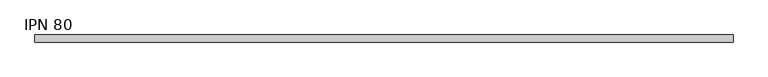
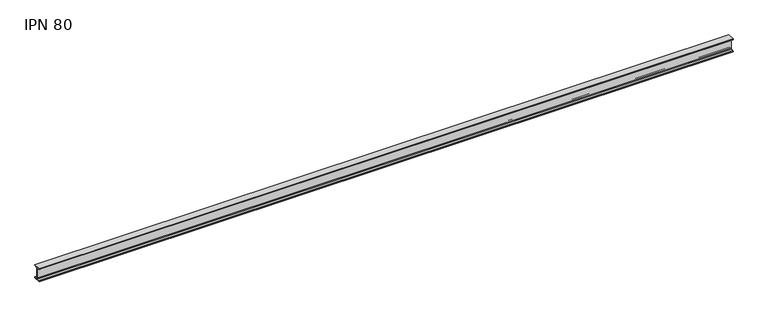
"""IFC4 building model written with IfcOpenShell, lengths in millimetres: beam geometry, IPN - Secciones en I con alas cónicas : IPN 80."""

from ifc_helpers import new_model, si_unit, point, frame, frame_2d, origin, place, context, project, spatial, polyline, circle_curve, trimmed, segment, composite_curve, outline, extrude, source, transform, mapped, element, save


def ipn_80_c23ce65d(model_context):
    return source(origin(), model_context, "Body", "SweptSolid", [
        extrude(outline(composite_curve([segment(polyline([(21.0, 40.0), (21.0, 37.5704306)]), True, "CONTINUOUS"), segment(trimmed(circle_curve(frame_2d((18.7, 37.5704306)), 2.3), [point((21.0, 37.5704306))], [point((19.01889, 35.2926446))], False, "CARTESIAN"), True, "CONTINUOUS"), segment(polyline([(19.01889, 35.2926446), (5.3092734, 33.3732983)]), True, "CONTINUOUS"), segment(trimmed(circle_curve(frame_2d((5.85, 29.5109655)), 3.9), [point((5.3092734, 33.3732983))], [point((1.95, 29.5109655))], True, "CARTESIAN"), True, "CONTINUOUS"), segment(polyline([(1.95, 29.5109655), (1.95, -29.5109655)]), True, "CONTINUOUS"), segment(trimmed(circle_curve(frame_2d((5.85, -29.5109655)), 3.9), [point((1.95, -29.5109655))], [point((5.3092734, -33.3732983))], True, "CARTESIAN"), True, "CONTINUOUS"), segment(polyline([(5.3092734, -33.3732983), (19.01889, -35.2926446)]), True, "CONTINUOUS"), segment(trimmed(circle_curve(frame_2d((18.7, -37.5704306)), 2.3), [point((19.01889, -35.2926446))], [point((21.0, -37.5704306))], False, "CARTESIAN"), True, "CONTINUOUS"), segment(polyline([(21.0, -37.5704306), (21.0, -40.0), (-21.0, -40.0), (-21.0, -37.5704306)]), True, "CONTINUOUS"), segment(trimmed(circle_curve(frame_2d((-18.7, -37.5704306)), 2.3), [point((-21.0, -37.5704306))], [point((-19.01889, -35.2926446))], False, "CARTESIAN"), True, "CONTINUOUS"), segment(polyline([(-19.01889, -35.2926446), (-5.3092734, -33.3732983)]), True, "CONTINUOUS"), segment(trimmed(circle_curve(frame_2d((-5.85, -29.5109655)), 3.9), [point((-5.3092734, -33.3732983))], [point((-1.95, -29.5109655))], True, "CARTESIAN"), True, "CONTINUOUS"), segment(polyline([(-1.95, -29.5109655), (-1.95, 29.5109655)]), True, "CONTINUOUS"), segment(trimmed(circle_curve(frame_2d((-5.85, 29.5109655)), 3.9), [point((-1.95, 29.5109655))], [point((-5.3092734, 33.3732983))], True, "CARTESIAN"), True, "CONTINUOUS"), segment(polyline([(-5.3092734, 33.3732983), (-19.01889, 35.2926446)]), True, "CONTINUOUS"), segment(trimmed(circle_curve(frame_2d((-18.7, 37.5704306)), 2.3), [point((-19.01889, 35.2926446))], [point((-21.0, 37.5704306))], False, "CARTESIAN"), True, "CONTINUOUS"), segment(polyline([(-21.0, 37.5704306), (-21.0, 40.0), (21.0, 40.0)]), True, "CONTINUOUS")], self_intersect=False)), frame((-2065.85, 0.0, 0.0), z_axis=(1.0, 0.0, 0.0), x_axis=(0.0, 1.0, 0.0)), (0.0, 0.0, 1.0), 4104.85),
    ])


if __name__ == "__main__":
    model = new_model("IFC4")
    model_context = context("Model", 3, world=origin())
    ifc_project = project(units=[si_unit("LENGTHUNIT", "METRE", prefix="MILLI")], contexts=[model_context])
    site = spatial("IfcSite", under=ifc_project)
    building = spatial("IfcBuilding", under=site)
    placement = place(None, origin())
    ipn_80_shape = ipn_80_c23ce65d(model_context)
    element("IfcBeam", 1, ObjectType="IPN - Secciones en I con alas cónicas : IPN 80", at=placement, inside=building, context=model_context, shape_type="MappedRepresentation", body=[
        mapped(ipn_80_shape, transform((0.0, 0.0, 0.0), x_axis=(1.0, 0.0, 0.0), y_axis=(0.0, 1.0, 0.0), z_axis=(0.0, 0.0, 1.0))),
    ])
    save(model, "model.ifc")
